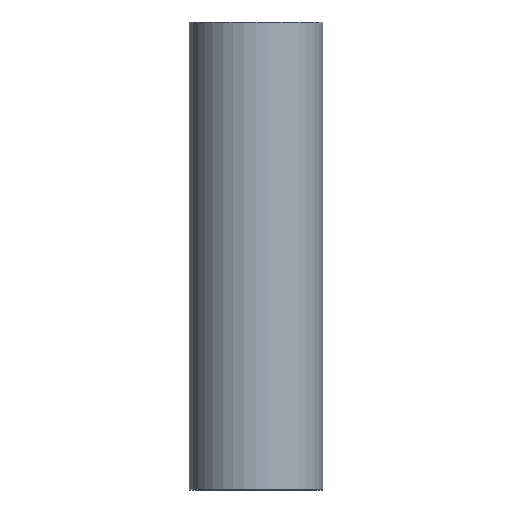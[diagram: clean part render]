
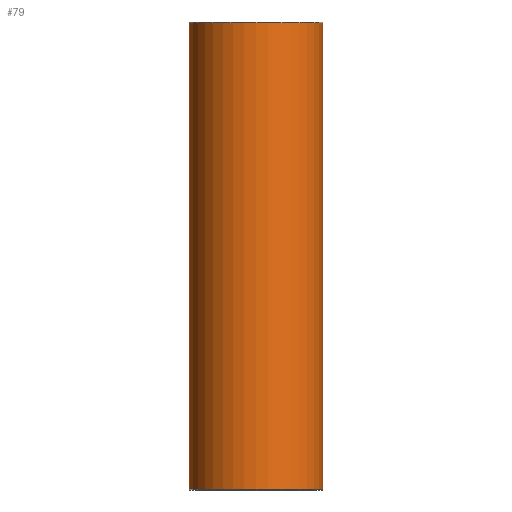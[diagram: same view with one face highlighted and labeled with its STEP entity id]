
A CAD part, front view. The second image highlights one B-rep face of the part: STEP entity #79.
In plain terms, the highlighted cylindrical face has radius 20 mm (diameter 40 mm), a full revolution.
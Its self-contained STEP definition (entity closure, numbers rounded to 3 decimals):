
#79=ADVANCED_FACE('',(#96,#97),#98,.T.);
#96=FACE_OUTER_BOUND('',#120,.T.);
#97=FACE_OUTER_BOUND('',#121,.T.);
#98=CYLINDRICAL_SURFACE('',#122,20.0);
#120=EDGE_LOOP('',(#152));
#121=EDGE_LOOP('',(#153));
#122=AXIS2_PLACEMENT_3D('',#154,#155,#156);
#152=ORIENTED_EDGE('',*,*,#178,.T.);
#153=ORIENTED_EDGE('',*,*,#177,.T.);
#154=CARTESIAN_POINT('',(0.,0.0,140.0));
#155=DIRECTION('',(0.0,0.0,-1.0));
#156=DIRECTION('',(-1.0,0.0,0.0));
#177=EDGE_CURVE('',#190,#190,#191,.T.);
#178=EDGE_CURVE('',#192,#192,#193,.F.);
#190=VERTEX_POINT('',#206);
#191=CIRCLE('',#207,20.0);
#192=VERTEX_POINT('',#208);
#193=CIRCLE('',#209,20.0);
#206=CARTESIAN_POINT('',(20.0,0.0,0.2));
#207=AXIS2_PLACEMENT_3D('',#227,#228,#229);
#208=CARTESIAN_POINT('',(20.0,0.,139.8));
#209=AXIS2_PLACEMENT_3D('',#230,#231,#232);
#227=CARTESIAN_POINT('',(0.,0.0,0.2));
#228=DIRECTION('',(0.0,0.0,1.0));
#229=DIRECTION('',(1.0,0.0,0.0));
#230=CARTESIAN_POINT('',(0.,0.0,139.8));
#231=DIRECTION('',(0.0,0.0,1.0));
#232=DIRECTION('',(1.0,0.0,0.0));
